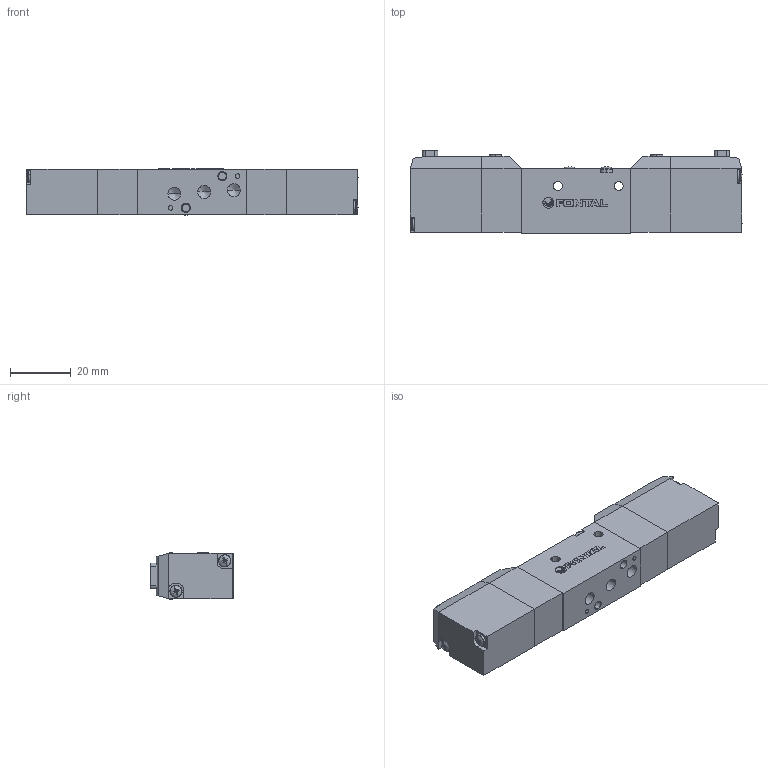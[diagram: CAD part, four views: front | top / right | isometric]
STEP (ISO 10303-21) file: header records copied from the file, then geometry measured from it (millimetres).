
FILE_DESCRIPTION (( 'STEP AP203' ), '1' );
FILE_NAME ('RCD(E¡BO)345#-M5-#-L-#.STEP', '2016-02-04T03:55:44', ( 'Sam Lin' ), ( '' ), 'SwSTEP 2.0', 'SolidWorks 2013', '' );
FILE_SCHEMA (( 'CONFIG_CONTROL_DESIGN' ));
Length unit declared in the file: metre
Products named in the file (8): RCS-2; PC5-5; RCD(E、O)345#-M5-#-L-#; PC5-6; PC5-4; ISO 7045 - M2 x 10; PC-MARK; ISO 7045 - M2.5 x 25
Assembly tree (14 placements, depth 2):
  RCD(E、O)345#-M5-#-L-#
    RCS-2
    PC5-5  x2
    PC5-6  x2
    PC5-4  x2
    ISO 7045 - M2 x 10  x4
    PC-MARK
    ISO 7045 - M2.5 x 25  x2
Bounding box: 109.14 x 27.5 x 15.4 mm (x, y, z)
Volume: 36877.9 mm3; surface area: 15079.7 mm2
Topology: 20 solids, 20 shells, 512 faces, 1254 edges, 779 vertices
Faces by surface type: plane 285, cylinder 111, cone 72, bspline 44
Entity records: 9716 total; most frequent: CARTESIAN_POINT 2023, ORIENTED_EDGE 1384, DIRECTION 1372, EDGE_CURVE 692, AXIS2_PLACEMENT_3D 483, VERTEX_POINT 446, VECTOR 406, LINE 406
